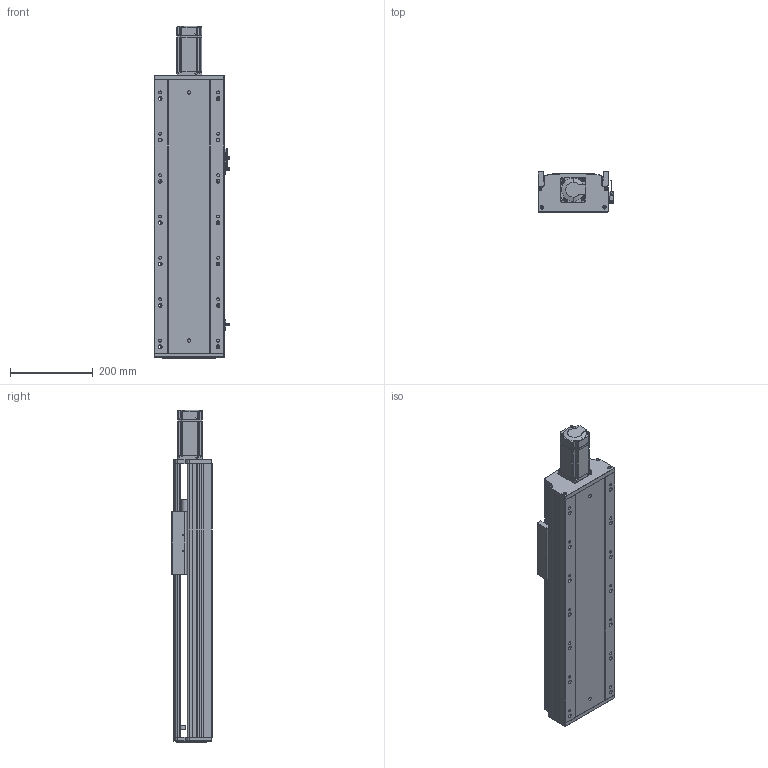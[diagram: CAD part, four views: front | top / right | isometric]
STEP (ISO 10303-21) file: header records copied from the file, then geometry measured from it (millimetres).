
FILE_DESCRIPTION (( 'STEP AP203' ), '1' );
FILE_NAME ('RY170-L2020-300-MK.SLDASM_350.step', '2021-02-20T03:50:29', ( '盈信电脑' ), ( '东莞市道滘镇水果街19号' ), 'SwSTEP 2.0', 'SolidWorks 2012', '' );
FILE_SCHEMA (( 'CONFIG_CONTROL_DESIGN' ));
Products named in the file (12): 滅袉蝶18-10; RY170-L2020-300-MK.SLDASM_350; RY170ヶ醱裔啣; 滅袉蝶18-28; RY170外置感应片(200共用）; 覜茼ん672; 15; RY170綴裔啣; 侂狟400W侜督萇儂; RY170-300倰第菁釱-MK_350; RY170-300倰第裔啣-MK_350; RY170臏賑輸20佪裝蹟譫
Assembly tree (13 placements, depth 3):
  RY170-L2020-300-MK.SLDASM_350
    RY170-300倰第菁釱-MK_350
    RY170-300倰第裔啣-MK_350
    RY170臏賑輸20佪裝蹟譫
    侂狟400W侜督萇儂
      15
    RY170綴裔啣
    覜茼ん672  x3
    RY170外置感应片(200共用）
    RY170ヶ醱裔啣
    滅袉蝶18-28
    滅袉蝶18-10
Bounding box: 183.7 x 97 x 802.5 mm (x, y, z)
Volume: 3992234.4 mm3; surface area: 1214287.1 mm2
Topology: 12 solids, 12 shells, 2094 faces, 5996 edges, 3892 vertices
Faces by surface type: plane 1166, cylinder 752, cone 147, bspline 29
Entity records: 66477 total; most frequent: CARTESIAN_POINT 14705, ORIENTED_EDGE 10836, DIRECTION 10233, EDGE_CURVE 5418, VERTEX_POINT 3572, LINE 3517, VECTOR 3517, AXIS2_PLACEMENT_3D 3358
